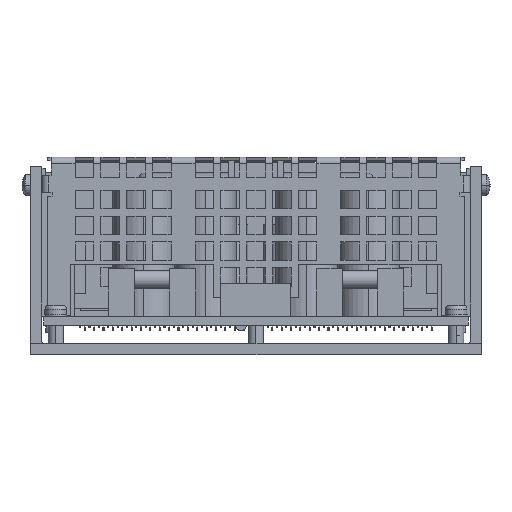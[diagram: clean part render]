
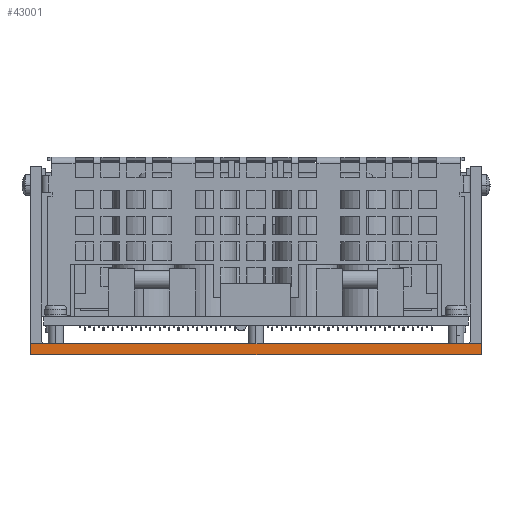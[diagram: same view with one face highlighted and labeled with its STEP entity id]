
A CAD part, front view. The second image highlights one B-rep face of the part: STEP entity #43001.
In plain terms, the highlighted planar face has unit normal (0, -1, 0) as drawn and (0, 1, 0) by its records, which use the part's own axes.
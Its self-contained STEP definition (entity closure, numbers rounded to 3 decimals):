
#39567=DIRECTION('',(1.,0.,0.));
#39568=VECTOR('',#39567,122.);
#39569=CARTESIAN_POINT('',(-61.,70.,0.));
#39570=LINE('',#39569,#39568);
#40106=DIRECTION('',(0.,0.,1.));
#40107=VECTOR('',#40106,3.);
#40108=CARTESIAN_POINT('',(61.,70.,0.));
#40109=LINE('',#40108,#40107);
#40110=DIRECTION('',(1.,0.,0.));
#40111=VECTOR('',#40110,122.);
#40112=CARTESIAN_POINT('',(-61.,70.,3.));
#40113=LINE('',#40112,#40111);
#40114=DIRECTION('',(0.,0.,1.));
#40115=VECTOR('',#40114,3.);
#40116=CARTESIAN_POINT('',(-61.,70.,0.));
#40117=LINE('',#40116,#40115);
#41315=CARTESIAN_POINT('',(-61.,70.,0.));
#41317=VERTEX_POINT('',#41315);
#41320=CARTESIAN_POINT('',(-61.,70.,3.));
#41321=VERTEX_POINT('',#41320);
#41410=CARTESIAN_POINT('',(61.,70.,0.));
#41411=VERTEX_POINT('',#41410);
#41484=CARTESIAN_POINT('',(61.,70.,3.));
#41485=VERTEX_POINT('',#41484);
#42989=CARTESIAN_POINT('',(61.,70.,3.));
#42990=DIRECTION('',(0.,-1.,0.));
#42991=DIRECTION('',(0.,0.,-1.));
#42992=AXIS2_PLACEMENT_3D('',#42989,#42990,#42991);
#42993=PLANE('',#42992);
#42994=ORIENTED_EDGE('',*,*,#42471,.T.);
#42995=ORIENTED_EDGE('',*,*,#42982,.T.);
#42996=ORIENTED_EDGE('',*,*,#42194,.F.);
#42998=ORIENTED_EDGE('',*,*,#42997,.F.);
#42999=EDGE_LOOP('',(#42994,#42995,#42996,#42998));
#43000=FACE_OUTER_BOUND('',#42999,.F.);
#42194=EDGE_CURVE('',#41321,#41485,#40113,.T.);
#42471=EDGE_CURVE('',#41317,#41411,#39570,.T.);
#42982=EDGE_CURVE('',#41411,#41485,#40109,.T.);
#42997=EDGE_CURVE('',#41317,#41321,#40117,.T.);
#43001=ADVANCED_FACE('',(#43000),#42993,.F.);
